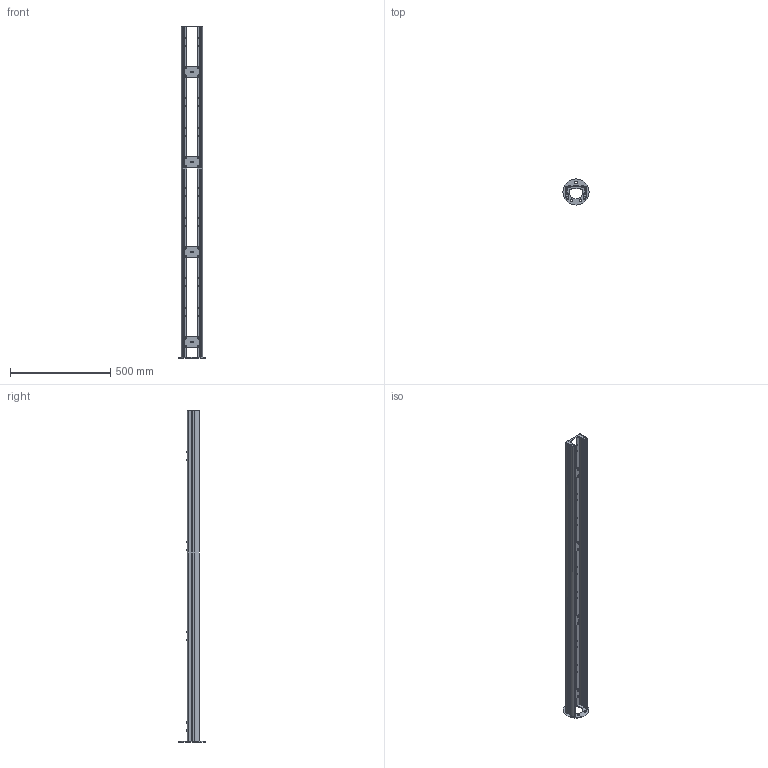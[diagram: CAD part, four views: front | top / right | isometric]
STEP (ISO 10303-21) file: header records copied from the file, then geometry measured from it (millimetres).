
FILE_DESCRIPTION(/* description */ (''),/* implementation_level */ '2;1');
FILE_NAME(/* name */ '001A-03-Device_Column_1650mm.stp',/* time_stamp */ '2025-11-11T23:50:46+01:00',/* author */ (''),/* organization */ (''),/* preprocessor_version */ 'ST-DEVELOPER v20',/* originating_system */ 'SIEMENS PLM Software NX2412.4001',/* authorisation */ '');
FILE_SCHEMA (('AP203_CONFIGURATION_CONTROLLED_3D_DESIGN_OF_MECHANICAL_PARTS_AND_ASSEMBLIES_MIM_LF { 1 0 10303 403 2 1 2}'));
Products named in the file (1): AS007798_objects
Bounding box: 130 x 130 x 1658.25 mm (x, y, z)
Volume: 5789127.5 mm3; surface area: 5991322.8 mm2
Topology: 106 solids, 106 shells, 4973 faces, 14070 edges, 9345 vertices
Faces by surface type: plane 2568, cylinder 1553, cone 814, torus 24, bspline 10, sphere 4
Full cylindrical faces by diameter (mm): 4.2 x16, 5 x280, 5.25 x2, 5.3 x16, 5.5 x32, 5.6 x16, 5.795 x28, 7 x16, 7.2 x4, 8.5 x16, 10 x16, 12 x7, 68 x1, 130 x1
Entity records: 182251 total; most frequent: CARTESIAN_POINT 47984, DIRECTION 28624, ORIENTED_EDGE 26488, EDGE_CURVE 13244, AXIS2_PLACEMENT_3D 10926, VERTEX_POINT 9012, LINE 6772, VECTOR 6772
